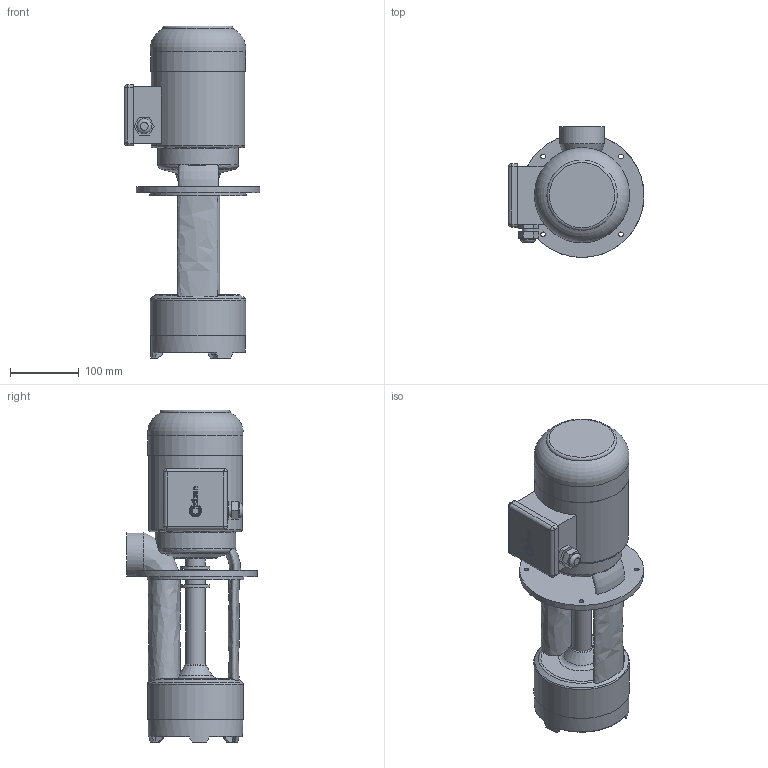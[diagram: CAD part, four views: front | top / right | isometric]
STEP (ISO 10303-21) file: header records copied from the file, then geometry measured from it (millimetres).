
FILE_DESCRIPTION(/* description */ ('Unknown'),/* implementation_level */ '2;1');
FILE_NAME(/* name */ 'EP 152-240',/* time_stamp */ '2023-03-28T15:09:16+03:00',/* author */ ('Unknown'),/* organization */ ('Unknown'),/* preprocessor_version */ 'ST-DEVELOPER v16.7',/* originating_system */ 'DEX',/* authorisation */ $);
FILE_SCHEMA (('AUTOMOTIVE_DESIGN {1 0 10303 214 3 1 1}'));
Length unit declared in the file: millimetre
Products named in the file (1): EP 152-240
Bounding box: 197.5 x 190 x 482.36 mm (x, y, z)
Volume: 5450293.5 mm3; surface area: 322135.3 mm2
Topology: 1 solids, 1 shells, 264 faces, 670 edges, 431 vertices
Faces by surface type: plane 91, bspline 81, cylinder 56, torus 26, cone 10
Full cylindrical faces by diameter (mm): 7 x4, 17 x1, 21.5 x1, 28 x1, 29 x3, 30 x1, 42 x2, 44 x1, 48 x1, 62 x1, 94 x1, 116.969 x1, 136.473 x1, 137 x1, 137.994 x1, 139 x1, 140 x1, 180 x1
Entity records: 11304 total; most frequent: CARTESIAN_POINT 5670, ORIENTED_EDGE 1204, DIRECTION 957, EDGE_CURVE 602, VERTEX_POINT 415, AXIS2_PLACEMENT_3D 364, EDGE_LOOP 355, FACE_BOUND 355
